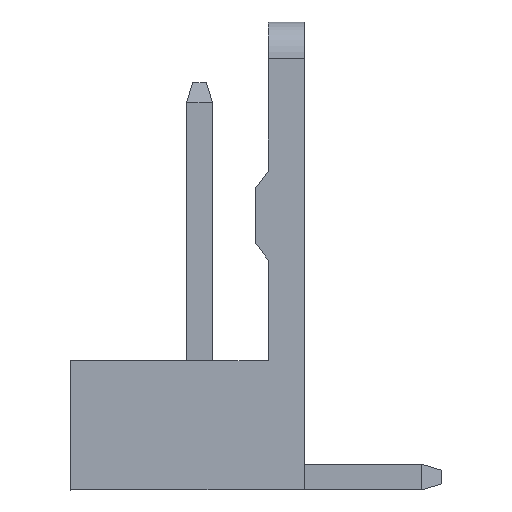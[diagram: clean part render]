
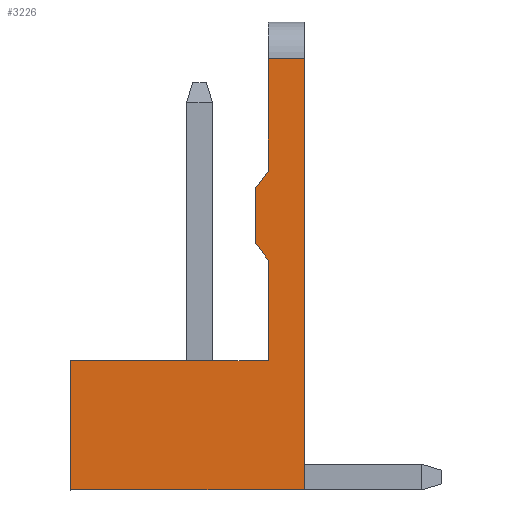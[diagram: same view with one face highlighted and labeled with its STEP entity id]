
A CAD part, left-side view. The second image highlights one B-rep face of the part: STEP entity #3226.
In plain terms, the highlighted planar face has unit normal (-1, 0, 0).
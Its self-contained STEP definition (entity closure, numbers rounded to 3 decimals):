
#61=CARTESIAN_POINT('Vertex',(-13.97,0.9,3.2)) ;
#66=CARTESIAN_POINT('Line Origine',(-13.97,0.9,4.45)) ;
#70=CARTESIAN_POINT('Vertex',(-13.97,0.9,5.7)) ;
#97=CARTESIAN_POINT('Line Origine',(-13.97,1.05,5.9)) ;
#101=CARTESIAN_POINT('Vertex',(-13.97,1.2,6.1)) ;
#128=CARTESIAN_POINT('Line Origine',(-13.97,1.2,6.8)) ;
#132=CARTESIAN_POINT('Vertex',(-13.97,1.2,7.5)) ;
#159=CARTESIAN_POINT('Line Origine',(-13.97,1.05,7.7)) ;
#163=CARTESIAN_POINT('Vertex',(-13.97,0.9,7.9)) ;
#2403=CARTESIAN_POINT('Vertex',(-13.97,0.,0.)) ;
#2408=CARTESIAN_POINT('Line Origine',(-13.97,2.9,0.)) ;
#2412=CARTESIAN_POINT('Vertex',(-13.97,5.8,0.)) ;
#2715=CARTESIAN_POINT('Vertex',(-13.97,5.8,3.2)) ;
#2718=CARTESIAN_POINT('Line Origine',(-13.97,3.35,3.2)) ;
#2887=CARTESIAN_POINT('Line Origine',(-13.97,5.8,1.6)) ;
#3190=CARTESIAN_POINT('Axis2P3D Location',(-13.97,0.,0.)) ;
#3195=CARTESIAN_POINT('Line Origine',(-13.97,0.45,10.7)) ;
#3199=CARTESIAN_POINT('Vertex',(-13.97,0.9,10.7)) ;
#3201=CARTESIAN_POINT('Vertex',(-13.97,0.,10.7)) ;
#3204=CARTESIAN_POINT('Line Origine',(-13.97,0.9,9.3)) ;
#3209=CARTESIAN_POINT('Line Origine',(-13.97,0.,5.35)) ;
#67=DIRECTION('Vector Direction',(0.,0.,1.)) ;
#98=DIRECTION('Vector Direction',(0.,0.6,0.8)) ;
#129=DIRECTION('Vector Direction',(0.,0.,1.)) ;
#160=DIRECTION('Vector Direction',(0.,-0.6,0.8)) ;
#2409=DIRECTION('Vector Direction',(0.,1.,0.)) ;
#2719=DIRECTION('Vector Direction',(0.,-1.,0.)) ;
#2888=DIRECTION('Vector Direction',(0.,0.,1.)) ;
#3191=DIRECTION('Axis2P3D Direction',(1.,0.,0.)) ;
#3192=DIRECTION('Axis2P3D XDirection',(0.,1.,0.)) ;
#3196=DIRECTION('Vector Direction',(0.,-1.,0.)) ;
#3205=DIRECTION('Vector Direction',(0.,0.,1.)) ;
#3210=DIRECTION('Vector Direction',(0.,0.,-1.)) ;
#3193=AXIS2_PLACEMENT_3D('Plane Axis2P3D',#3190,#3191,#3192) ;
#3215=ORIENTED_EDGE('',*,*,#3203,.F.) ;
#3216=ORIENTED_EDGE('',*,*,#3208,.F.) ;
#3217=ORIENTED_EDGE('',*,*,#165,.F.) ;
#3218=ORIENTED_EDGE('',*,*,#134,.F.) ;
#3219=ORIENTED_EDGE('',*,*,#103,.F.) ;
#3220=ORIENTED_EDGE('',*,*,#72,.F.) ;
#3221=ORIENTED_EDGE('',*,*,#2722,.F.) ;
#3222=ORIENTED_EDGE('',*,*,#2891,.F.) ;
#3223=ORIENTED_EDGE('',*,*,#2414,.F.) ;
#3224=ORIENTED_EDGE('',*,*,#3213,.F.) ;
#68=VECTOR('Line Direction',#67,1.) ;
#99=VECTOR('Line Direction',#98,1.) ;
#130=VECTOR('Line Direction',#129,1.) ;
#161=VECTOR('Line Direction',#160,1.) ;
#2410=VECTOR('Line Direction',#2409,1.) ;
#2720=VECTOR('Line Direction',#2719,1.) ;
#2889=VECTOR('Line Direction',#2888,1.) ;
#3197=VECTOR('Line Direction',#3196,1.) ;
#3206=VECTOR('Line Direction',#3205,1.) ;
#3211=VECTOR('Line Direction',#3210,1.) ;
#3226=ADVANCED_FACE('\X2\96F64EF651E04F554F53\X0\',(#3225),#3194,.F.) ;
#72=EDGE_CURVE('',#62,#71,#69,.T.) ;
#103=EDGE_CURVE('',#71,#102,#100,.T.) ;
#134=EDGE_CURVE('',#102,#133,#131,.T.) ;
#165=EDGE_CURVE('',#133,#164,#162,.T.) ;
#2414=EDGE_CURVE('',#2404,#2413,#2411,.T.) ;
#2722=EDGE_CURVE('',#2716,#62,#2721,.T.) ;
#2891=EDGE_CURVE('',#2413,#2716,#2890,.T.) ;
#3203=EDGE_CURVE('',#3200,#3202,#3198,.T.) ;
#3208=EDGE_CURVE('',#164,#3200,#3207,.T.) ;
#3213=EDGE_CURVE('',#3202,#2404,#3212,.T.) ;
#3214=EDGE_LOOP('',(#3215,#3216,#3217,#3218,#3219,#3220,#3221,#3222,#3223,#3224)) ;
#3225=FACE_OUTER_BOUND('',#3214,.T.) ;
#69=LINE('Line',#66,#68) ;
#100=LINE('Line',#97,#99) ;
#131=LINE('Line',#128,#130) ;
#162=LINE('Line',#159,#161) ;
#2411=LINE('Line',#2408,#2410) ;
#2721=LINE('Line',#2718,#2720) ;
#2890=LINE('Line',#2887,#2889) ;
#3198=LINE('Line',#3195,#3197) ;
#3207=LINE('Line',#3204,#3206) ;
#3212=LINE('Line',#3209,#3211) ;
#3194=PLANE('Plane',#3193) ;
#62=VERTEX_POINT('',#61) ;
#71=VERTEX_POINT('',#70) ;
#102=VERTEX_POINT('',#101) ;
#133=VERTEX_POINT('',#132) ;
#164=VERTEX_POINT('',#163) ;
#2404=VERTEX_POINT('',#2403) ;
#2413=VERTEX_POINT('',#2412) ;
#2716=VERTEX_POINT('',#2715) ;
#3200=VERTEX_POINT('',#3199) ;
#3202=VERTEX_POINT('',#3201) ;
